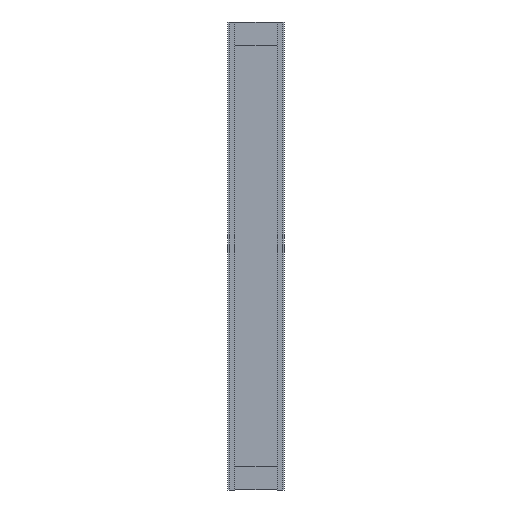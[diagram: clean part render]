
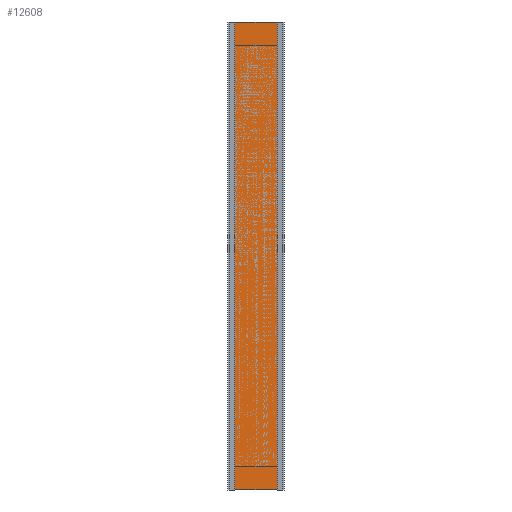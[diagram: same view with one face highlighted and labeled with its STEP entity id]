
A CAD part, front view. The second image highlights one B-rep face of the part: STEP entity #12608.
In plain terms, the highlighted planar face has unit normal (0, -1, 0) as drawn and (0, 1, 0) by its records, which use the part's own axes.
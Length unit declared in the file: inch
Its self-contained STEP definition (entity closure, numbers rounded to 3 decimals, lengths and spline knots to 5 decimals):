
#12529=DIRECTION('',(1.,0.,0.));
#12530=VECTOR('',#12529,11.875);
#12531=CARTESIAN_POINT('',(-5.9375,0.,0.));
#12532=LINE('',#12531,#12530);
#12533=DIRECTION('',(0.,0.,1.));
#12534=VECTOR('',#12533,119.75);
#12535=CARTESIAN_POINT('',(-5.9375,0.,-119.75));
#12536=LINE('',#12535,#12534);
#12537=DIRECTION('',(-1.,0.,0.));
#12538=VECTOR('',#12537,11.875);
#12539=CARTESIAN_POINT('',(5.9375,0.,-119.75));
#12540=LINE('',#12539,#12538);
#12541=DIRECTION('',(0.,0.,-1.));
#12542=VECTOR('',#12541,119.75);
#12543=CARTESIAN_POINT('',(5.9375,0.,0.));
#12544=LINE('',#12543,#12542);
#12577=CARTESIAN_POINT('',(-5.9375,0.,0.));
#12578=CARTESIAN_POINT('',(5.9375,0.,0.));
#12579=VERTEX_POINT('',#12577);
#12580=VERTEX_POINT('',#12578);
#12581=CARTESIAN_POINT('',(5.9375,0.,-119.75));
#12582=VERTEX_POINT('',#12581);
#12583=CARTESIAN_POINT('',(-5.9375,0.,-119.75));
#12584=VERTEX_POINT('',#12583);
#12593=CARTESIAN_POINT('',(0.,0.,0.));
#12594=DIRECTION('',(0.,1.,0.));
#12595=DIRECTION('',(1.,0.,0.));
#12596=AXIS2_PLACEMENT_3D('',#12593,#12594,#12595);
#12597=PLANE('',#12596);
#12599=ORIENTED_EDGE('',*,*,#12598,.F.);
#12601=ORIENTED_EDGE('',*,*,#12600,.F.);
#12603=ORIENTED_EDGE('',*,*,#12602,.F.);
#12605=ORIENTED_EDGE('',*,*,#12604,.F.);
#12606=EDGE_LOOP('',(#12599,#12601,#12603,#12605));
#12607=FACE_OUTER_BOUND('',#12606,.F.);
#12608=ADVANCED_FACE('',(#12607),#12597,.T.);
#12598=EDGE_CURVE('',#12579,#12580,#12532,.T.);
#12600=EDGE_CURVE('',#12584,#12579,#12536,.T.);
#12602=EDGE_CURVE('',#12582,#12584,#12540,.T.);
#12604=EDGE_CURVE('',#12580,#12582,#12544,.T.);
